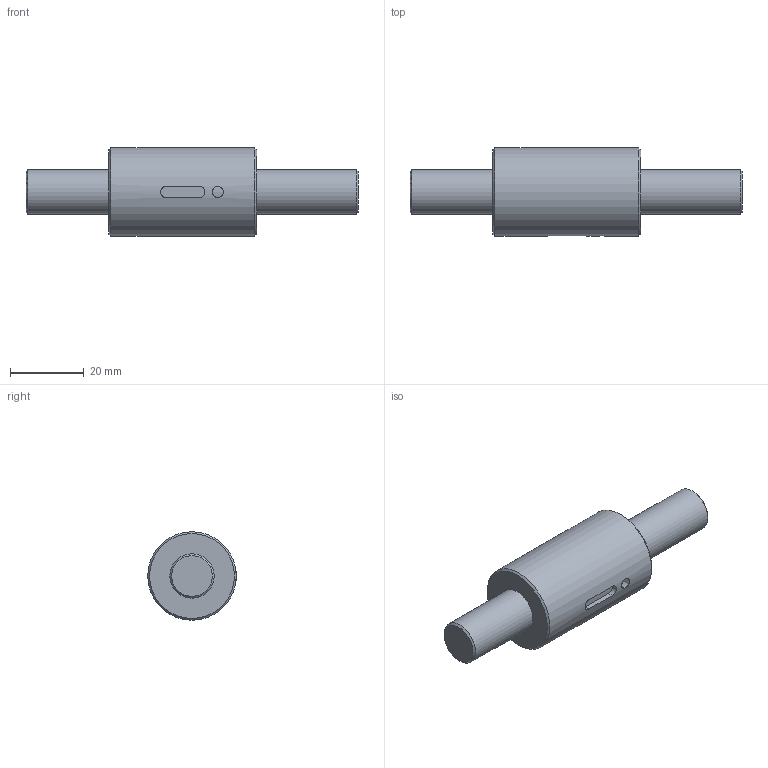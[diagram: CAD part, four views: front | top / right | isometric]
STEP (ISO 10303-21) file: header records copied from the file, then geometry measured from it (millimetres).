
FILE_DESCRIPTION(/* description */ (''),/* implementation_level */ '2;1');
FILE_NAME(/* name */ 'XCH12100.stp',/* time_stamp */ '2017-12-27T11:04:51+08:00',/* author */ (''),/* organization */ (''),/* preprocessor_version */ 'ST-DEVELOPER v11',/* originating_system */ 'SIEMENS UGS NX 6.0',/* authorisation */ '');
FILE_SCHEMA (('CONFIG_CONTROL_DESIGN'));
Length unit declared in the file: millimetre
Products named in the file (1): fann3322lg5i
Bounding box: 90 x 24 x 24 mm (x, y, z)
Volume: 23630 mm3; surface area: 8835.7 mm2
Topology: 2 solids, 2 shells, 18 faces, 35 edges, 22 vertices
Faces by surface type: plane 7, cylinder 5, cone 4, extrusion 2
Full cylindrical faces by diameter (mm): 12 x2, 24 x1
Entity records: 738 total; most frequent: CARTESIAN_POINT 303, DIRECTION 70, ORIENTED_EDGE 56, EDGE_LOOP 30, AXIS2_PLACEMENT_3D 29, EDGE_CURVE 28, VERTEX_POINT 22, FACE_BOUND 21
